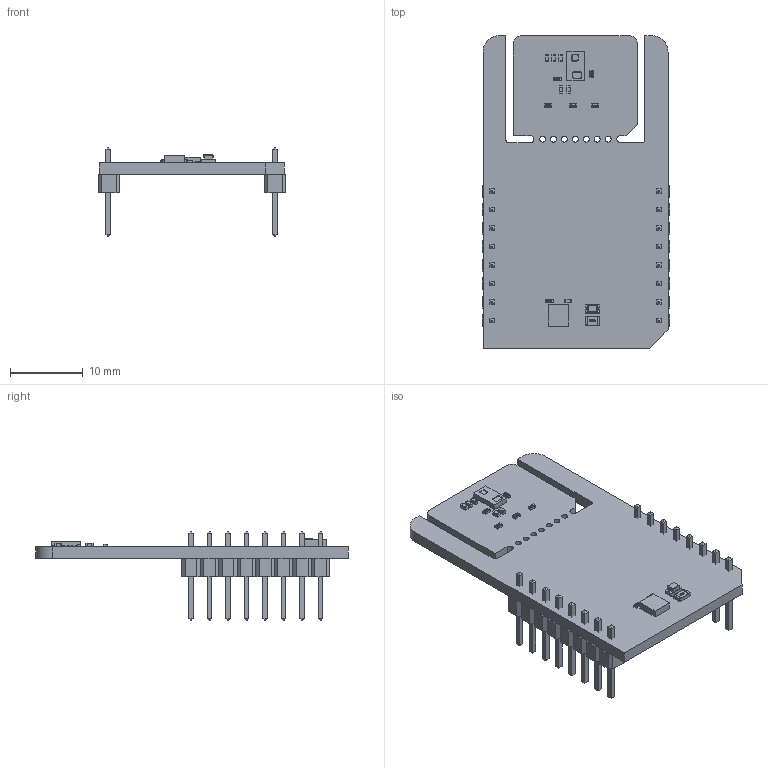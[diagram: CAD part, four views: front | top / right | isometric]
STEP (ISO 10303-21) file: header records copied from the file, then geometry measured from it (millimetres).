
FILE_DESCRIPTION(('Open CASCADE Model'),'2;1');
FILE_NAME('Open CASCADE Shape Model','2025-12-18T14:01:29',('Author'),( 'Open CASCADE'),'Open CASCADE STEP processor 6.8','Open CASCADE 6.8' ,'Unknown');
FILE_SCHEMA(('AUTOMOTIVE_DESIGN { 1 0 10303 214 1 1 1 1 }'));
Length unit declared in the file: millimetre
Products named in the file (32): PCB; Board; C1; User_Library-SMD_CAPACITOR0402; LD1; led_0805_green; MBD1; Header_1x8; Free-Models; 1240637040; User_Library-PinHeaderX5-1_PinHeaderX5_Body_1; User_Library-PinHeaderX5-1_PinHeaderX5_Pins_1; R1; User_Library-R_0805; R2; User_Library-R_0402; U1; 1044280480; Extruded; R3; R4; U2; VCNL4030X01-GS08; R5; R6; C2; C3; C4; C5; C6; R7
Assembly tree (43 placements, depth 7):
  PCB
    Board
    C1
      User_Library-SMD_CAPACITOR0402
    LD1
      led_0805_green
    MBD1
      Header_1x8  x2
        PCB
          Free-Models
            1240637040  x2
              User_Library-PinHeaderX5-1_PinHeaderX5_Body_1
              User_Library-PinHeaderX5-1_PinHeaderX5_Pins_1
    R1
      User_Library-R_0805
    R2
      User_Library-R_0402
    U1
      1044280480
        Extruded
    R3
      User_Library-R_0402
    R4
      User_Library-R_0402
    U2
      VCNL4030X01-GS08
    R5
      User_Library-R_0402
    R6
      User_Library-R_0402
    C2
      User_Library-SMD_CAPACITOR0402
    C3
      User_Library-SMD_CAPACITOR0402
    C4
      User_Library-SMD_CAPACITOR0402
    C5
      User_Library-SMD_CAPACITOR0402
    C6
      User_Library-SMD_CAPACITOR0402
    R7
      User_Library-R_0402
Bounding box: 25.78 x 42.93 x 12.19 mm (x, y, z)
Volume: 2146.7 mm3; surface area: 3883.4 mm2
Topology: 57 solids, 57 shells, 1632 faces, 4071 edges, 2568 vertices
Faces by surface type: plane 1216, bspline 202, cylinder 153, sphere 52, torus 9
Full cylindrical faces by diameter (mm): 0.8 x7
Entity records: 26205 total; most frequent: CARTESIAN_POINT 7796, ORIENTED_EDGE 3214, DIRECTION 2848, EDGE_CURVE 1607, LINE 1304, VECTOR 1304, VERTEX_POINT 1040, AXIS2_PLACEMENT_3D 772
